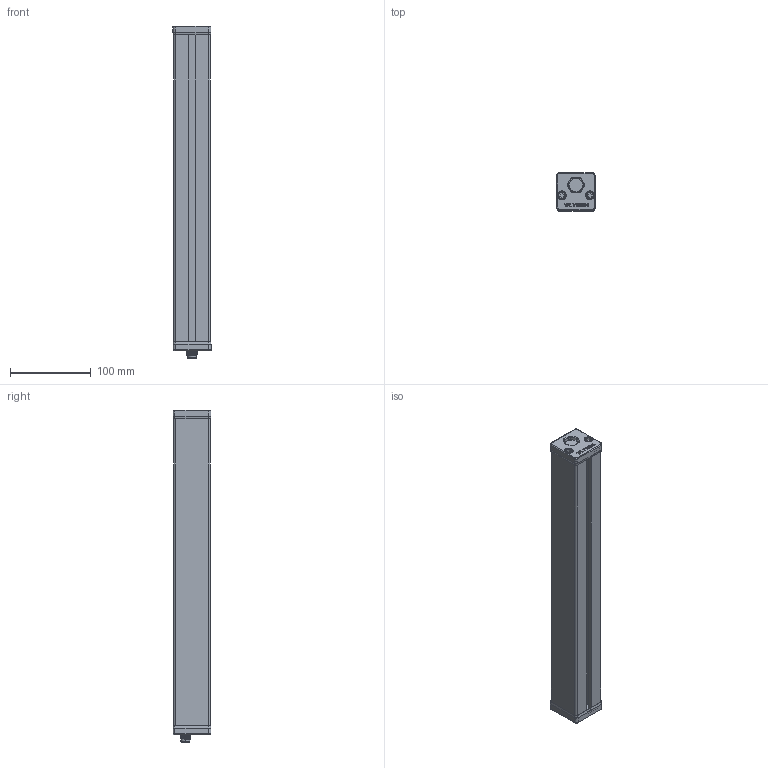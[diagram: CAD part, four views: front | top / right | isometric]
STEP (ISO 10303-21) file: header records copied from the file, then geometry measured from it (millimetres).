
FILE_DESCRIPTION (( 'STEP AP214' ), '1' );
FILE_NAME ('BLBAR 15.STEP', '2012-02-13T13:36:43', ( ' ' ), ( '' ), 'SwSTEP 2.0', 'SolidWorks 2009', '' );
FILE_SCHEMA (( 'AUTOMOTIVE_DESIGN' ));
Length unit declared in the file: millimetre
Products named in the file (1): BLBAR 15
Bounding box: 47.2 x 47 x 412.1 mm (x, y, z)
Volume: 216921.2 mm3; surface area: 211612.4 mm2
Topology: 1 solids, 3 shells, 599 faces, 1564 edges, 1007 vertices
Faces by surface type: plane 311, cylinder 156, bspline 66, torus 38, cone 20, sphere 8
Entity records: 34060 total; most frequent: CARTESIAN_POINT 13050, ORIENTED_EDGE 3096, DIRECTION 2810, EDGE_CURVE 1548, VERTEX_POINT 999, LINE 950, VECTOR 950, AXIS2_PLACEMENT_3D 930
